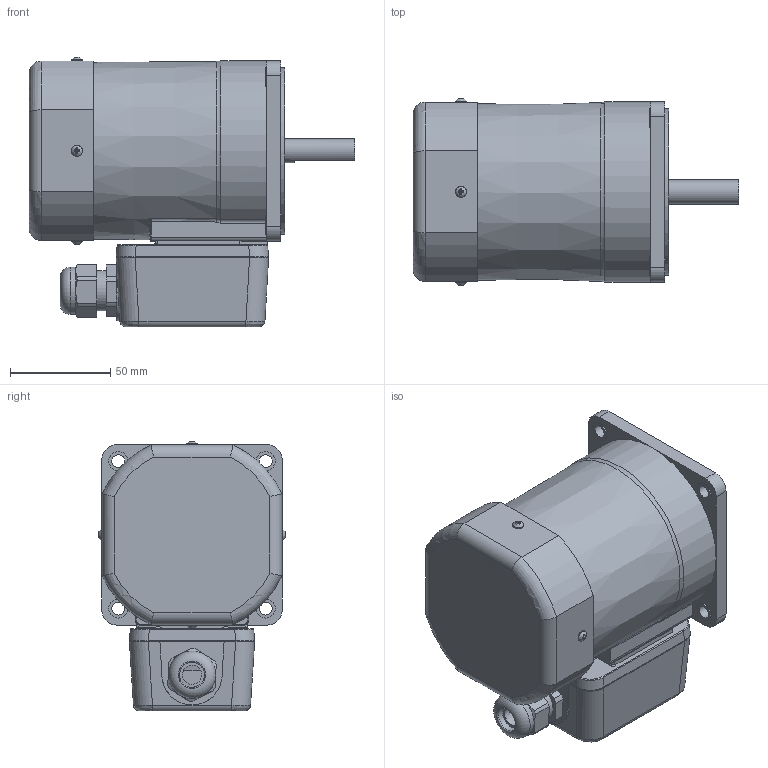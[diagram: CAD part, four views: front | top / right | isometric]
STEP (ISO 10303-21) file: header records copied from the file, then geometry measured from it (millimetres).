
FILE_DESCRIPTION((''),'2;1');
FILE_NAME('D:\STP파일\60W MOTOR\T BOX TYPE\S9I60D-T.stp','2013-05-20T18:14:24',('leebh'),(''),'Autodesk Inventor 2011','Autodesk Inventor 2011','');
FILE_SCHEMA(('AUTOMOTIVE_DESIGN { 1 0 10303 214 1 1 1 1 }'));
Length unit declared in the file: millimetre
Products named in the file (1): 부품1
Bounding box: 162.41 x 93.49 x 134.55 mm (x, y, z)
Volume: 1019238.2 mm3; surface area: 79915.1 mm2
Topology: 1 solids, 13 shells, 477 faces, 1170 edges, 744 vertices
Faces by surface type: plane 256, cylinder 127, bspline 53, torus 33, cone 8
Full cylindrical faces by diameter (mm): 2.55 x2, 3 x4, 3.5 x4, 5.6 x8, 6.3 x4, 6.5 x4, 9.5 x4, 12 x1, 12.5 x1, 15 x1, 20 x2, 21 x1, 23.6 x1, 40 x1, 83 x1
Entity records: 15955 total; most frequent: CARTESIAN_POINT 4966, ORIENTED_EDGE 2152, DIRECTION 2071, EDGE_CURVE 1076, AXIS2_PLACEMENT_3D 747, VERTEX_POINT 726, EDGE_LOOP 594, VECTOR 577
